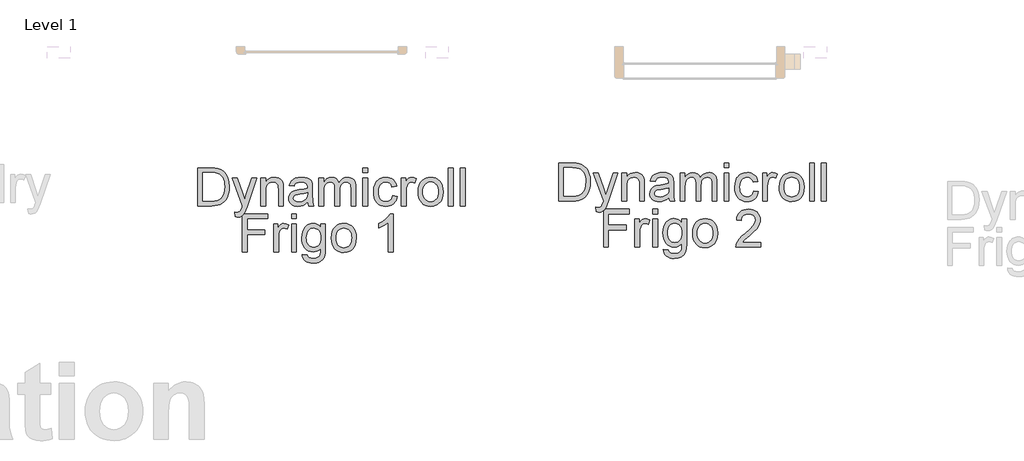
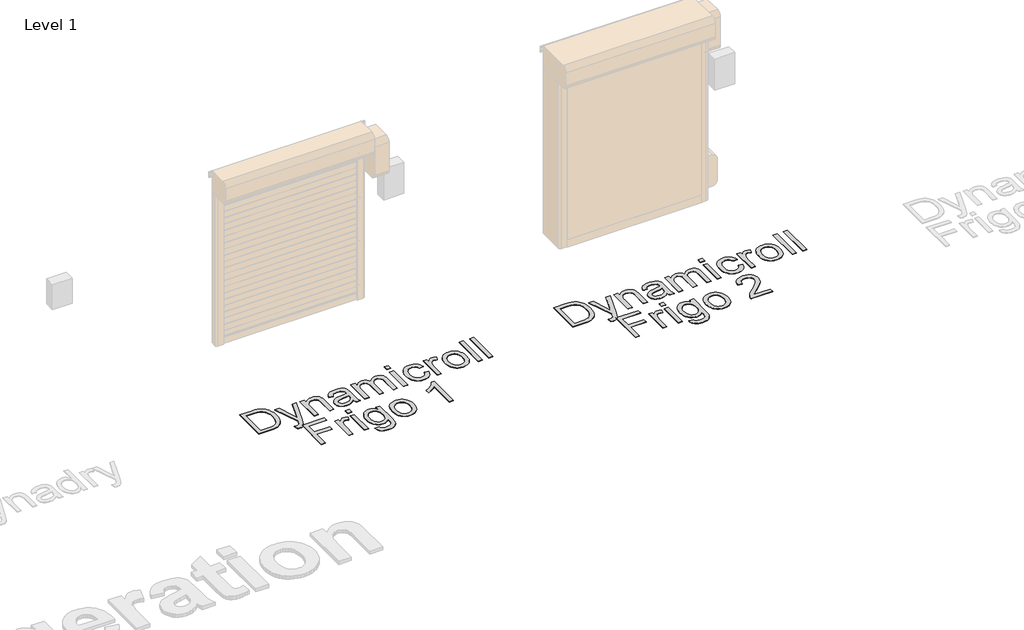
# One storey, part 4 of 20: 2 proxies.
"""IFC4 building model written with IfcOpenShell, lengths in millimetres."""

import ifcopenshell
import ifcopenshell.guid

model = None  # the IFC model being written
_history = None  # IfcOwnerHistory: only IFC2X3 demands one
_inside = {}  # id of a spatial element -> (the spatial element, [elements in it])
_under = {}  # id of a project, library or spatial element -> (it, [spatial elements below it])
_declared = {}  # id of a project -> (the project, [libraries it declares])
_typed = {}  # id of a type object -> (the type object, [elements of that type])
_made_of = {}  # id of a material, layer set ... -> (it, [elements and type objects made of it])


def new_model(schema):
    """Start an empty IFC model of exactly this schema.

    Asked for "IFC4X3", IfcOpenShell would pick the latest addendum, in which some entities
    have other attributes; the version numbers below select the first issue.
    IFC2X3 requires an IfcOwnerHistory on every rooted entity: one is made here for all.
    """
    global model, _history
    if schema == "IFC4X3":
        model = ifcopenshell.file(schema_version=(4, 3, 0, 0))
    else:
        model = ifcopenshell.file(schema=schema)
    _inside.clear()
    _under.clear()
    _declared.clear()
    _typed.clear()
    _made_of.clear()
    _history = None
    if model.schema == "IFC2X3":
        org = make("IfcOrganization", Name="unknown")
        user = make(
            "IfcPersonAndOrganization",
            ThePerson=make("IfcPerson", FamilyName="unknown"),
            TheOrganization=org,
        )
        app = make(
            "IfcApplication",
            ApplicationDeveloper=org,
            Version="unknown",
            ApplicationFullName="unknown",
            ApplicationIdentifier="unknown",
        )
        _history = make(
            "IfcOwnerHistory",
            OwningUser=user,
            OwningApplication=app,
            ChangeAction="ADDED",
            CreationDate=0,
        )
    return model


def make(cls, **values):
    """One entity of the class cls with the attributes given. An attribute that is None is left unset."""
    return model.create_entity(
        cls, **{name: value for name, value in values.items() if value is not None}
    )


def rooted(cls, **values):
    """An entity with a GlobalId (a new one), such as an element, a storey or a relation."""
    return make(cls, GlobalId=ifcopenshell.guid.new(), OwnerHistory=_history, **values)


def si_unit(unit_type, name, prefix=None):
    """IfcSIUnit, for example si_unit("LENGTHUNIT", "METRE", prefix="MILLI")."""
    return make("IfcSIUnit", UnitType=unit_type, Prefix=prefix, Name=name)


def assignment(units):
    """IfcUnitAssignment: the units of a project."""
    return None if units is None else make("IfcUnitAssignment", Units=units)


def point(xyz):
    """IfcCartesianPoint."""
    return None if xyz is None else make("IfcCartesianPoint", Coordinates=xyz)


def direction(xyz):
    """IfcDirection."""
    return None if xyz is None else make("IfcDirection", DirectionRatios=xyz)


def frame(location, z_axis=None, x_axis=None):
    """IfcAxis2Placement3D, a coordinate frame: its origin and axes. An axis left out is left unset."""
    return make(
        "IfcAxis2Placement3D",
        Location=point(location),
        Axis=direction(z_axis),
        RefDirection=direction(x_axis),
    )


def origin():
    """The frame at (0, 0, 0) with its axes left unset."""
    return frame((0.0, 0.0, 0.0))


def origin_with_axes():
    """The frame at (0, 0, 0) with the z axis (0, 0, 1) and the x axis (1, 0, 0) written out."""
    return frame((0.0, 0.0, 0.0), z_axis=(0.0, 0.0, 1.0), x_axis=(1.0, 0.0, 0.0))


def place(relative_to, where):
    """IfcLocalPlacement: puts the frame where relative to a parent placement (None: the world)."""
    return make(
        "IfcLocalPlacement", PlacementRelTo=relative_to, RelativePlacement=where
    )


def context(
    kind, dimensions, precision=None, world=None, true_north=None, identifier=None
):
    """IfcGeometricRepresentationContext, for example the 3D "Model" context."""
    return make(
        "IfcGeometricRepresentationContext",
        ContextIdentifier=identifier,
        ContextType=kind,
        CoordinateSpaceDimension=dimensions,
        Precision=precision,
        WorldCoordinateSystem=world,
        TrueNorth=true_north,
    )


def project(units=None, contexts=None):
    """IfcProject with its units and contexts."""
    return rooted(
        "IfcProject",
        Name="project",
        RepresentationContexts=contexts,
        UnitsInContext=assignment(units),
    )


def spatial(cls, under=None, at=None, **own):
    """A site, building, storey or space (cls), placed at a placement, below another one or the project."""
    s = rooted(cls, ObjectPlacement=at, **own)
    if under is not None:
        _under.setdefault(under.id(), (under, []))[1].append(s)
    return s


def polyline(points):
    """IfcPolyline through the points."""
    return make("IfcPolyline", Points=[point(p) for p in points])


def outline(outer, holes=None, kind="AREA"):
    """IfcArbitraryClosedProfileDef: a profile drawn as a closed curve; with holes, ...WithVoids."""
    if holes is None:
        return make("IfcArbitraryClosedProfileDef", ProfileType=kind, OuterCurve=outer)
    return make(
        "IfcArbitraryProfileDefWithVoids",
        ProfileType=kind,
        OuterCurve=outer,
        InnerCurves=holes,
    )


def extrude(swept, where, along, depth):
    """IfcExtrudedAreaSolid: the profile swept, set in the frame where, extruded along a direction by depth."""
    return make(
        "IfcExtrudedAreaSolid",
        SweptArea=swept,
        Position=where,
        ExtrudedDirection=direction(along),
        Depth=depth,
    )


def shape(context_of_items, identifier, shape_type, items):
    """IfcShapeRepresentation: the items that make up one representation, for example the "Body"."""
    return make(
        "IfcShapeRepresentation",
        ContextOfItems=context_of_items,
        RepresentationIdentifier=identifier,
        RepresentationType=shape_type,
        Items=items,
    )


def made_of(thing, what):
    """Note that an element or type object is made of a material, layer set ...; save() writes the relation."""
    if what is not None:
        _made_of.setdefault(what.id(), (what, []))[1].append(thing)
    return thing


def element(
    cls,
    number,
    at=None,
    inside=None,
    cuts=None,
    type_object=None,
    material=None,
    context=None,
    identifier="Body",
    shape_type=None,
    held_by="IfcProductDefinitionShape",
    body=None,
    shapes=None,
    **own,
):
    """One element of the class cls, such as IfcWall. Its Tag is "e" and its number.

    at: its placement. inside: the storey or other place that contains it. cuts: it is an
    opening in that element (IfcRelVoidsElement). A single representation is given by context,
    identifier, shape_type and body (its items); several are given by shapes. held_by: the class
    of the entity that holds the representations. save() writes the other relations.
    """
    e = rooted(cls, Tag="e%d" % number, ObjectPlacement=at, **own)
    if body is not None:
        shapes = [shape(context, identifier, shape_type, body)]
    if shapes is not None:
        e.Representation = make(held_by, Representations=shapes)
    if inside is not None:
        _inside.setdefault(inside.id(), (inside, []))[1].append(e)
    if cuts is not None:
        rooted(
            "IfcRelVoidsElement", RelatingBuildingElement=cuts, RelatedOpeningElement=e
        )
    if type_object is not None:
        _typed.setdefault(type_object.id(), (type_object, []))[1].append(e)
    return made_of(e, material)


def aggregate(whole, parts):
    """IfcRelAggregates: a whole, such as a stair, and the parts it consists of."""
    return rooted("IfcRelAggregates", RelatingObject=whole, RelatedObjects=parts)


def save(model, path):
    """Write the relations noted so far, then the file.

    IfcRelAggregates (storeys below a building ...), IfcRelContainedInSpatialStructure (elements
    in a storey), IfcRelDefinesByType, IfcRelAssociatesMaterial and IfcRelDeclares: one each for
    every whole, place, type object, material and project.
    """
    for whole, parts in _under.values():
        aggregate(whole, parts)
    for where, things in _inside.values():
        rooted(
            "IfcRelContainedInSpatialStructure",
            RelatedElements=things,
            RelatingStructure=where,
        )
    for kind, things in _typed.values():
        rooted("IfcRelDefinesByType", RelatedObjects=things, RelatingType=kind)
    for what, things in _made_of.values():
        rooted("IfcRelAssociatesMaterial", RelatedObjects=things, RelatingMaterial=what)
    for by, libraries in _declared.values():
        rooted("IfcRelDeclares", RelatingContext=by, RelatedDefinitions=libraries)
    model.write(path)


model = new_model("IFC4")

# Units and contexts
model_context = context("Model", 3, world=origin())
ifc_project = project(units=[si_unit("LENGTHUNIT", "METRE", prefix="MILLI")], contexts=[model_context])

# Site, building, storey
site = spatial("IfcSite", under=ifc_project)
building = spatial("IfcBuilding", under=site)
storey = spatial("IfcBuildingStorey", under=building, Name="Level 1", Elevation=0.0)

# Proxies
placement = place(None, origin())
element("IfcBuildingElementProxy", 1, Name="500mm", ObjectType="500mm", at=placement, inside=storey, context=model_context, shape_type="SweptSolid", body=[
    extrude(outline(polyline([(14861.4528433, 7547.2366873), (14861.4528433, 8049.5182381), (15034.725263, 8049.5182381), (15086.5046538, 8047.7094849), (15124.3658425, 8042.2832255), (15164.4036663, 8028.3343665), (15198.1874962, 8006.3534173), (15216.803858, 7988.3885132), (15232.9216879, 7968.0936898), (15246.5409859, 7945.4689471), (15257.6617521, 7920.5142851), (15272.4690024, 7864.5349081), (15277.4047525, 7801.075264), (15274.0631577, 7747.1652233), (15264.0383733, 7699.7237743), (15248.7712705, 7659.3333969), (15229.7027204, 7626.5765709), (15207.752428, 7600.7175324), (15183.8400984, 7581.0205172), (15156.3869045, 7566.4125363), (15123.8140195, 7555.8206005), (15086.0601297, 7549.3826656), (15043.0639215, 7547.2366873), (14861.4528433, 7547.2366873)]), holes=[polyline([(14924.2380371, 7610.0218811), (15035.3383996, 7610.0218811), (15081.2929922, 7612.2904868), (15116.1498112, 7619.0963037), (15142.4533739, 7630.0407931), (15162.7481973, 7644.725416), (15184.5605339, 7671.9026984), (15200.9466111, 7707.0814142), (15211.2013218, 7750.4148476), (15214.6195586, 7802.0562826), (15212.9449291, 7838.507257), (15207.9210406, 7870.4823337), (15199.5478931, 7897.9815129), (15187.8254866, 7921.0047944), (15173.704183, 7940.0733445), (15158.1343439, 7955.7083293), (15141.1159696, 7967.9097488), (15122.6490598, 7976.677603), (15086.5353106, 7984.2191839), (15033.621617, 7986.7330442), (14924.2380371, 7986.7330442), (14924.2380371, 7610.0218811)])]), origin_with_axes(), (0.0, 0.0, 1.0), 5.0),
    extrude(outline(polyline([(15355.8862448, 7405.9700012), (15348.0380955, 7466.4252757), (15379.9212018, 7460.9070458), (15396.6904894, 7462.6391568), (15409.7196434, 7467.83549), (15419.8670551, 7476.1281633), (15427.9911158, 7487.1492948), (15445.1589423, 7533.3797988), (15450.0640355, 7548.585588), (15316.6454986, 7916.0997011), (15382.8642578, 7916.0997011), (15453.6202282, 7711.3120572), (15478.2683218, 7629.3969996), (15502.9164155, 7701.7471253), (15575.6344232, 7916.0997011), (15641.362673, 7916.0997011), (15512.9718567, 7538.4075194), (15479.6172225, 7456.4924618), (15462.5413665, 7430.3421833), (15443.196905, 7412.2239951), (15420.7254464, 7401.6473877), (15394.2685996, 7398.1218519), (15376.0890977, 7400.0838892), (15355.8862448, 7405.9700012)])), origin_with_axes(), (0.0, 0.0, 1.0), 5.0),
    extrude(outline(polyline([(15693.3566617, 7547.2366873), (15693.3566617, 7916.0997011), (15756.1418555, 7916.0997011), (15756.1418555, 7864.5962218), (15777.9541922, 7890.5625593), (15804.1504559, 7909.1099432), (15834.7306467, 7920.2383736), (15869.6947647, 7923.9478504), (15900.6428375, 7920.9588092), (15928.9850796, 7911.9916855), (15952.6214978, 7898.1654539), (15969.4520991, 7880.5990886), (15980.8717693, 7859.338575), (15988.2753945, 7834.4298982), (15991.5863324, 7773.729369), (15991.5863324, 7547.2366873), (15928.8011386, 7547.2366873), (15928.8011386, 7765.2680831), (15926.9923855, 7797.7336692), (15921.566126, 7820.8182644), (15911.5566701, 7837.3576258), (15895.9983274, 7850.1875103), (15876.0560575, 7858.41887), (15852.8948203, 7861.1626565), (15833.8301023, 7859.6221507), (15816.1219492, 7855.0006331), (15799.7703609, 7847.2981038), (15784.7753375, 7836.5145628), (15772.2481891, 7821.4237368), (15763.300226, 7800.7993525), (15757.9314481, 7774.6414098), (15756.1418555, 7742.9499087), (15756.1418555, 7547.2366873), (15693.3566617, 7547.2366873)])), origin_with_axes(), (0.0, 0.0, 1.0), 5.0),
    extrude(outline(polyline([(16313.3604509, 7594.3255827), (16283.3627399, 7568.6044999), (16252.4759807, 7551.7738986), (16219.9950662, 7542.4848782), (16185.2148892, 7539.3885381), (16157.2596897, 7541.2509407), (16132.7457197, 7546.8381485), (16111.6729791, 7556.1501615), (16094.0414681, 7569.1869797), (16080.1194338, 7585.1208686), (16070.1751237, 7603.1240937), (16064.2085375, 7623.1966551), (16062.2196755, 7645.3385527), (16065.2240451, 7671.3662038), (16074.237154, 7695.002622), (16088.1400278, 7715.2361318), (16105.8136919, 7731.0550576), (16126.5836963, 7743.0112224), (16149.7755904, 7751.6564493), (16204.0994983, 7761.0987538), (16268.2949065, 7771.0315677), (16312.9925689, 7782.6811642), (16313.3604509, 7796.66068), (16309.0378374, 7824.6810253), (16296.0699971, 7843.0138114), (16282.9948579, 7850.9539312), (16267.0686332, 7856.6254452), (16226.6629274, 7861.1626565), (16189.2615912, 7858.1429585), (16163.1419695, 7849.0838643), (16145.3303496, 7832.3299052), (16132.8530186, 7806.2256119), (16070.0678247, 7814.0737611), (16080.9663289, 7848.409414), (16097.2297787, 7875.387427), (16120.3756876, 7896.0194756), (16151.9215687, 7911.3172352), (16190.5031929, 7920.7901966), (16234.7563313, 7923.9478504), (16277.2007164, 7921.1580786), (16310.8465906, 7912.7887632), (16336.2151198, 7900.2041333), (16353.8274704, 7884.7684179), (16365.5077237, 7865.6845394), (16373.0799614, 7842.1554201), (16376.1456447, 7787.2183755), (16376.1456447, 7709.1047652), (16379.3339554, 7600.0277536), (16384.0551076, 7573.065069), (16391.8419432, 7547.2366873), (16329.0567493, 7547.2366873), (16319.0013081, 7569.0643524), (16313.3604509, 7594.3255827)]), holes=[polyline([(16313.3604509, 7719.8959704), (16271.1766488, 7709.4419903), (16212.0702749, 7700.6434793), (16158.0529353, 7690.4654108), (16143.9967774, 7683.5063097), (16133.5887826, 7673.910721), (16127.1508477, 7662.4144086), (16125.0048694, 7649.7531366), (16129.6800364, 7631.0831254), (16143.7055374, 7615.7853657), (16166.7748042, 7605.5766404), (16198.5812684, 7602.1737319), (16232.3037846, 7605.929194), (16262.1022262, 7617.1955801), (16286.2598106, 7633.7962551), (16303.059755, 7653.5545839), (16310.5093654, 7673.910721), (16312.9925689, 7702.1150073), (16313.3604509, 7719.8959704)])]), origin_with_axes(), (0.0, 0.0, 1.0), 5.0),
    extrude(outline(polyline([(16462.4752863, 7547.2366873), (16462.4752863, 7916.0997011), (16525.2604801, 7916.0997011), (16525.2604801, 7855.3991719), (16544.1450892, 7883.2815615), (16568.4253009, 7905.1245549), (16597.2733807, 7919.2420265), (16629.8615941, 7923.9478504), (16664.7797268, 7919.150056), (16692.7694152, 7904.756673), (16713.6773753, 7881.718063), (16727.3503228, 7850.984588), (16750.2356486, 7882.9060153), (16776.3399418, 7905.7070348), (16805.6632025, 7919.3876465), (16838.2054307, 7923.9478504), (16863.3402016, 7922.0509588), (16885.401625, 7916.3602842), (16904.3897009, 7906.8758265), (16920.3044293, 7893.5975858), (16932.8852271, 7876.3722778), (16941.8715112, 7855.0466184), (16947.2632817, 7829.6206075), (16949.0605386, 7800.0942453), (16949.0605386, 7547.2366873), (16886.2753447, 7547.2366873), (16886.2753447, 7773.1162323), (16884.8191451, 7804.4321872), (16880.4505465, 7825.5394167), (16872.2651721, 7839.9941134), (16859.3586454, 7851.35247), (16842.7579704, 7858.7101099), (16823.4901509, 7861.1626565), (16805.6976915, 7859.5914938), (16789.4763947, 7854.8780058), (16774.8262607, 7847.0221923), (16761.7472893, 7836.0240535), (16750.9905731, 7821.5616926), (16743.3072043, 7803.3132128), (16738.6971831, 7781.2786141), (16737.1605093, 7755.4578966), (16737.1605093, 7547.2366873), (16674.3753155, 7547.2366873), (16674.3753155, 7780.1059903), (16670.7424808, 7815.6066028), (16659.8439767, 7840.9291468), (16651.4171797, 7849.7813073), (16640.6681277, 7856.1042791), (16612.2032583, 7861.1626565), (16588.0150171, 7857.7904049), (16565.7274996, 7847.67365), (16547.3333998, 7831.0576466), (16534.825412, 7808.1876492), (16527.6517131, 7776.4578271), (16525.2604801, 7733.2623495), (16525.2604801, 7547.2366873), (16462.4752863, 7547.2366873)])), origin_with_axes(), (0.0, 0.0, 1.0), 5.0),
    extrude(outline(polyline([(17043.2383293, 7986.7330442), (17043.2383293, 8049.5182381), (17106.0235232, 8049.5182381), (17106.0235232, 7986.7330442), (17043.2383293, 7986.7330442)])), origin_with_axes(), (0.0, 0.0, 1.0), 5.0),
    extrude(outline(polyline([(17043.2383293, 7547.2366873), (17043.2383293, 7916.0997011), (17106.0235232, 7916.0997011), (17106.0235232, 7547.2366873), (17043.2383293, 7547.2366873)])), origin_with_axes(), (0.0, 0.0, 1.0), 5.0),
    extrude(outline(polyline([(17435.6457908, 7680.6552242), (17498.4309847, 7672.807075), (17491.6021751, 7643.1810781), (17480.9259331, 7616.9656538), (17466.4022585, 7594.1608022), (17448.0311513, 7574.7665233), (17426.5866967, 7559.2886548), (17402.8429796, 7548.2330344), (17376.8, 7541.5996621), (17348.457758, 7539.3885381), (17313.2445533, 7542.4733819), (17281.6718474, 7551.7279133), (17253.7396405, 7567.1521324), (17229.4479325, 7588.7460391), (17209.7854063, 7616.1034304), (17195.7407447, 7648.8181032), (17187.3139478, 7686.8900576), (17184.5050155, 7730.3192936), (17189.3028098, 7786.1913716), (17203.6961929, 7834.6138392), (17214.5487117, 7855.5639524), (17227.9150909, 7873.7166296), (17243.7953304, 7889.0718708), (17262.1894301, 7901.629676), (17303.1929442, 7918.3683068), (17347.5993667, 7923.9478504), (17375.4549315, 7922.0317983), (17400.651016, 7916.2836421), (17423.1876204, 7906.7033818), (17443.0647444, 7893.2910174), (17459.945163, 7876.3531172), (17473.4916511, 7856.1962496), (17483.7042086, 7832.8204145), (17490.5828355, 7806.2256119), (17427.7976416, 7798.3774627), (17416.4086282, 7825.7693429), (17398.6736503, 7845.4050444), (17375.5737267, 7857.2232535), (17348.089876, 7861.1626565), (17326.7565524, 7859.2236118), (17307.5155576, 7853.4064778), (17290.3668917, 7843.7112544), (17275.3105546, 7830.1379416), (17263.0516535, 7812.3723069), (17254.2952956, 7790.1001178), (17249.0414809, 7763.3213742), (17247.2902093, 7732.0360762), (17249.0031598, 7700.2794294), (17254.1420115, 7673.1902854), (17262.7067642, 7650.7686442), (17274.6974179, 7633.0145058), (17289.4548509, 7619.5216673), (17306.3199411, 7609.8839254), (17325.2926886, 7604.1012803), (17346.3730933, 7602.1737319), (17378.8846647, 7606.9868547), (17405.5407809, 7621.426223), (17416.3204898, 7632.3477197), (17424.9312277, 7645.8597188), (17435.6457908, 7680.6552242)])), origin_with_axes(), (0.0, 0.0, 1.0), 5.0),
    extrude(outline(polyline([(17553.3680293, 7547.2366873), (17553.3680293, 7916.0997011), (17608.3050739, 7916.0997011), (17608.3050739, 7861.5305385), (17628.5998973, 7893.1683901), (17647.3005654, 7911.8077445), (17666.0625472, 7920.9128239), (17686.5413115, 7923.9478504), (17717.8112811, 7919.1040708), (17749.5717601, 7904.572732), (17728.6024863, 7848.2867867), (17706.5295666, 7857.9436891), (17684.4566469, 7861.1626565), (17665.7099936, 7858.0663164), (17648.9560344, 7848.777296), (17635.4210426, 7834.0007025), (17626.3312917, 7814.4416431), (17618.6977403, 7779.3702263), (17616.1532231, 7741.1104988), (17616.1532231, 7547.2366873), (17553.3680293, 7547.2366873)])), origin_with_axes(), (0.0, 0.0, 1.0), 5.0),
    extrude(outline(polyline([(17773.1162077, 7731.6681942), (17776.511452, 7779.4392041), (17786.6971847, 7820.6036666), (17803.673406, 7855.1615815), (17827.4401157, 7883.1129489), (17851.3677738, 7900.9782183), (17877.7786354, 7913.739125), (17906.6727004, 7921.395669), (17938.0499689, 7923.9478504), (17972.688358, 7920.8400139), (18004.008145, 7911.5165046), (18032.0093297, 7895.9773224), (18056.6919124, 7874.2224674), (18076.8372837, 7846.9877034), (18091.2268347, 7815.0087945), (18099.8605652, 7778.2857408), (18102.7384754, 7736.8185422), (18097.6494412, 7673.3895548), (18091.2881483, 7647.3542395), (18082.3823384, 7625.105043), (18071.0431423, 7605.8870408), (18057.3816911, 7588.9453085), (18041.3979848, 7574.2798461), (18023.0920235, 7561.8906534), (17982.3644209, 7545.0140669), (17938.0499689, 7539.3885381), (17902.9057421, 7542.4848782), (17871.2947152, 7551.7738986), (17843.2168883, 7567.2555992), (17818.6722615, 7588.9299801), (17798.741488, 7616.4291592), (17784.5052212, 7649.3852546), (17775.9634611, 7687.7982663), (17773.1162077, 7731.6681942)]), holes=[polyline([(17835.9014016, 7731.7908216), (17837.7178189, 7701.3370901), (17843.167071, 7674.9683817), (17852.2491578, 7652.6846963), (17864.9640792, 7634.4860338), (17880.4304514, 7620.3494017), (17897.7668904, 7610.2518074), (17916.9733963, 7604.1932508), (17938.0499689, 7602.1737319), (17959.0192426, 7604.2047471), (17978.1491064, 7610.2977926), (17995.4395602, 7620.4528686), (18010.890604, 7634.6699748), (18023.6055254, 7653.0487462), (18032.6876122, 7675.6888173), (18038.1368642, 7702.5901882), (18039.9532816, 7733.7528589), (18038.1253679, 7763.2409), (18032.6416269, 7788.9198297), (18023.5020586, 7810.7896479), (18010.706663, 7828.8503546), (17995.1981376, 7842.9869867), (17977.9191801, 7853.084581), (17958.8697906, 7859.1431377), (17938.0499689, 7861.1626565), (17916.9733963, 7859.1508019), (17897.7668904, 7853.1152379), (17880.4304514, 7843.0559646), (17864.9640792, 7828.9729819), (17852.2491578, 7810.827969), (17843.167071, 7788.5826046), (17837.7178189, 7762.2368888), (17835.9014016, 7731.7908216)])]), origin_with_axes(), (0.0, 0.0, 1.0), 5.0),
    extrude(outline(polyline([(18173.3718185, 7547.2366873), (18173.3718185, 8049.5182381), (18236.1570123, 8049.5182381), (18236.1570123, 7547.2366873), (18173.3718185, 7547.2366873)])), origin_with_axes(), (0.0, 0.0, 1.0), 5.0),
    extrude(outline(polyline([(18330.3348031, 7547.2366873), (18330.3348031, 8049.5182381), (18393.119997, 8049.5182381), (18393.119997, 7547.2366873), (18330.3348031, 7547.2366873)])), origin_with_axes(), (0.0, 0.0, 1.0), 5.0),
    extrude(outline(polyline([(15450.0640355, 6937.3625981), (15450.0640355, 7439.6441488), (15787.5344524, 7439.6441488), (15787.5344524, 7376.858955), (15512.8492294, 7376.858955), (15512.8492294, 7227.7441196), (15748.2937063, 7227.7441196), (15748.2937063, 7164.9589258), (15512.8492294, 7164.9589258), (15512.8492294, 6937.3625981), (15450.0640355, 6937.3625981)])), origin_with_axes(), (0.0, 0.0, 1.0), 5.0),
    extrude(outline(polyline([(15866.0159448, 6937.3625981), (15866.0159448, 7306.2256119), (15920.9529894, 7306.2256119), (15920.9529894, 7251.6564493), (15941.2478128, 7283.2943009), (15959.9484809, 7301.9336553), (15978.7104626, 7311.0387347), (15999.189227, 7314.0737611), (16030.4591966, 7309.2299815), (16062.2196755, 7294.6986427), (16041.2504018, 7238.4126975), (16019.1774821, 7248.0695998), (15997.1045624, 7251.2885673), (15978.357909, 7248.1922272), (15961.6039498, 7238.9032068), (15948.0689581, 7224.1266133), (15938.9792071, 7204.5675539), (15931.3456557, 7169.496137), (15928.8011386, 7131.2364095), (15928.8011386, 6937.3625981), (15866.0159448, 6937.3625981)])), origin_with_axes(), (0.0, 0.0, 1.0), 5.0),
    extrude(outline(polyline([(16101.4604217, 7376.858955), (16101.4604217, 7439.6441488), (16164.2456155, 7439.6441488), (16164.2456155, 7376.858955), (16101.4604217, 7376.858955)])), origin_with_axes(), (0.0, 0.0, 1.0), 5.0),
    extrude(outline(polyline([(16101.4604217, 6937.3625981), (16101.4604217, 7306.2256119), (16164.2456155, 7306.2256119), (16164.2456155, 6937.3625981), (16101.4604217, 6937.3625981)])), origin_with_axes(), (0.0, 0.0, 1.0), 5.0),
    extrude(outline(polyline([(16242.7271078, 6905.9700012), (16305.5123017, 6898.1218519), (16312.4407459, 6878.5014789), (16325.8684387, 6865.0124724), (16352.2639719, 6854.5278355), (16386.8142226, 6851.0329565), (16423.6637358, 6854.987688), (16451.0709444, 6866.8518823), (16470.0781808, 6885.8591188), (16481.7277773, 6911.2429764), (16485.1306858, 6938.2516462), (16486.019734, 6984.4514935), (16465.1271023, 6963.8501017), (16441.8125809, 6949.1348219), (16416.0761696, 6940.305654), (16387.9178686, 6937.3625981), (16353.4940773, 6940.7884992), (16323.1859658, 6951.0662024), (16296.9935342, 6968.1957078), (16274.9167824, 6992.1770154), (16257.4002345, 7020.9484531), (16244.8884145, 7052.4483489), (16237.3813226, 7086.6767029), (16234.8789586, 7123.633515), (16239.3701846, 7174.3245882), (16252.8438627, 7220.9383027), (16274.8248119, 7260.4396319), (16288.8273203, 7276.3850172), (16304.8378513, 7289.7935495), (16322.5996539, 7300.4161421), (16341.8559771, 7308.0037082), (16362.6068209, 7312.5562479), (16384.8521853, 7314.0737611), (16414.213767, 7310.6401959), (16440.862219, 7300.3395), (16464.7975414, 7283.1716735), (16486.019734, 7259.1367165), (16486.019734, 7306.2256119), (16548.8049278, 7306.2256119), (16548.8049278, 6987.7624314), (16544.5129712, 6914.2320176), (16539.1480254, 6886.8822906), (16531.6371014, 6865.80955), (16509.4568827, 6833.6965175), (16477.2518797, 6809.0944091), (16457.5663609, 6799.9740013), (16435.7271995, 6793.4594243), (16385.5879493, 6788.2477627), (16354.8276495, 6790.0833406), (16327.1713541, 6795.5900742), (16302.619063, 6804.7679635), (16281.1707763, 6817.6170086), (16263.8458336, 6834.1525379), (16251.6635746, 6854.3898798), (16244.6239994, 6878.3290342), (16242.7271078, 6905.9700012)]), holes=[polyline([(16297.6641524, 7127.9254716), (16299.3387819, 7096.8815961), (16304.3626704, 7070.3366109), (16312.7358179, 7048.2905159), (16324.4582244, 7030.7433112), (16338.7098196, 7017.3577715), (16354.6705333, 7007.7966717), (16372.3403653, 7002.0600119), (16391.7193159, 7000.1477919), (16410.9066612, 7002.0485156), (16428.492187, 7007.7506865), (16444.4758932, 7017.2543047), (16458.85778, 7030.5593702), (16470.7411348, 7047.9341303), (16479.2292455, 7069.6468322), (16484.3221118, 7095.697476), (16486.019734, 7126.0860616), (16484.2722945, 7155.2062208), (16479.029976, 7180.5172685), (16470.2927787, 7202.0192047), (16458.0607023, 7219.7120294), (16443.3684151, 7233.5267647), (16427.2505852, 7243.3944328), (16409.7072126, 7249.3150337), (16390.7382972, 7251.2885673), (16372.0874465, 7249.3456905), (16354.8851311, 7243.5170601), (16339.1313511, 7233.8026762), (16324.8261064, 7220.2025387), (16312.9427515, 7202.7779613), (16304.4546409, 7181.5902576), (16299.3617745, 7156.6394277), (16297.6641524, 7127.9254716)])]), origin_with_axes(), (0.0, 0.0, 1.0), 5.0),
    extrude(outline(polyline([(16627.2864201, 7121.794105), (16630.6816644, 7169.5651149), (16640.8673971, 7210.7295773), (16657.8436183, 7245.2874923), (16681.6103281, 7273.2388597), (16705.5379862, 7291.1041291), (16731.9488477, 7303.8650358), (16760.8429128, 7311.5215798), (16792.2201813, 7314.0737611), (16826.8585704, 7310.9659247), (16858.1783573, 7301.6424154), (16886.1795421, 7286.1032332), (16910.8621247, 7264.3483781), (16931.0074961, 7237.1136142), (16945.397047, 7205.1347053), (16954.0307776, 7168.4116516), (16956.9086878, 7126.9444529), (16951.8196535, 7063.5154656), (16945.4583607, 7037.4801502), (16936.5525507, 7015.2309537), (16925.2133546, 6996.0129516), (16911.5519035, 6979.0712193), (16895.5681972, 6964.4057568), (16877.2622358, 6952.0165642), (16836.5346333, 6935.1399777), (16792.2201813, 6929.5144488), (16757.0759544, 6932.610789), (16725.4649276, 6941.8998094), (16697.3871007, 6957.38151), (16672.8424738, 6979.0558909), (16652.9117003, 7006.55507), (16638.6754335, 7039.5111654), (16630.1336735, 7077.9241771), (16627.2864201, 7121.794105)]), holes=[polyline([(16690.0716139, 7121.9167323), (16691.8880313, 7091.4630009), (16697.3372834, 7065.0942925), (16706.4193701, 7042.8106071), (16719.1342916, 7024.6119446), (16734.6006638, 7010.4753125), (16751.9371028, 7000.3777182), (16771.1436086, 6994.3191616), (16792.2201813, 6992.2996427), (16813.189455, 6994.3306579), (16832.3193187, 7000.4237034), (16849.6097725, 7010.5787793), (16865.0608163, 7024.7958856), (16877.7757378, 7043.1746569), (16886.8578245, 7065.8147281), (16892.3070766, 7092.716099), (16894.1234939, 7123.8787696), (16892.2955803, 7153.3668108), (16886.8118393, 7179.0457405), (16877.672271, 7200.9155587), (16864.8768753, 7218.9762654), (16849.36835, 7233.1128975), (16832.0893925, 7243.2104918), (16813.0400029, 7249.2690484), (16792.2201813, 7251.2885673), (16771.1436086, 7249.2767126), (16751.9371028, 7243.2411487), (16734.6006638, 7233.1818753), (16719.1342916, 7219.0988927), (16706.4193701, 7200.9538797), (16697.3372834, 7178.7085153), (16691.8880313, 7152.3627995), (16690.0716139, 7121.9167323)])]), origin_with_axes(), (0.0, 0.0, 1.0), 5.0),
    extrude(outline(polyline([(17443.4939401, 6937.3625981), (17380.7087462, 6937.3625981), (17380.7087462, 7328.7890409), (17354.4971541, 7307.589841), (17321.2344903, 7286.4212978), (17255.1383585, 7254.7221326), (17255.1383585, 7314.0737611), (17304.4498743, 7340.89849), (17347.170171, 7372.812253), (17380.846702, 7406.7493671), (17403.0269206, 7439.6441488), (17443.4939401, 7439.6441488), (17443.4939401, 6937.3625981)])), origin_with_axes(), (0.0, 0.0, 1.0), 5.0),
])
element("IfcBuildingElementProxy", 2, Name="500mm", ObjectType="500mm", at=placement, inside=storey, context=model_context, shape_type="SweptSolid", body=[
    extrude(outline(polyline([(19635.3862268, 7610.4555859), (19635.3862268, 8112.7371367), (19808.6586466, 8112.7371367), (19860.4380374, 8110.9283835), (19898.299226, 8105.5021241), (19938.3370499, 8091.5532651), (19972.1208797, 8069.5723159), (19990.7372415, 8051.6074118), (20006.8550715, 8031.3125884), (20020.4743695, 8008.6878457), (20031.5951356, 7983.7331837), (20046.4023859, 7927.7538068), (20051.338136, 7864.2941626), (20047.9965413, 7810.3841219), (20037.9717569, 7762.9426729), (20022.7046541, 7722.5522955), (20003.636104, 7689.7954695), (19981.6858116, 7663.936431), (19957.7734819, 7644.2394158), (19930.320288, 7629.6314349), (19897.7474031, 7619.0394991), (19859.9935133, 7612.6015642), (19816.9973051, 7610.4555859), (19635.3862268, 7610.4555859)]), holes=[polyline([(19698.1714207, 7673.2407798), (19809.2717832, 7673.2407798), (19855.2263758, 7675.5093854), (19890.0831948, 7682.3152023), (19916.3867575, 7693.2596917), (19936.6815809, 7707.9443146), (19958.4939175, 7735.121597), (19974.8799947, 7770.3003128), (19985.1347053, 7813.6337462), (19988.5529422, 7865.2751812), (19986.8783127, 7901.7261556), (19981.8544242, 7933.7012323), (19973.4812767, 7961.2004115), (19961.7588702, 7984.223693), (19947.6375665, 8003.2922431), (19932.0677275, 8018.9272279), (19915.0493531, 8031.1286474), (19896.5824434, 8039.8965016), (19860.4686942, 8047.4380825), (19807.5550006, 8049.9519428), (19698.1714207, 8049.9519428), (19698.1714207, 7673.2407798)])]), origin_with_axes(), (0.0, 0.0, 1.0), 5.0),
    extrude(outline(polyline([(20129.8196283, 7469.1888998), (20121.9714791, 7529.6441743), (20153.8545854, 7524.1259444), (20170.623873, 7525.8580554), (20183.653027, 7531.0543886), (20193.8004387, 7539.3470619), (20201.9244994, 7550.3681934), (20219.0923258, 7596.5986974), (20223.9974191, 7611.8044866), (20090.5788822, 7979.3185997), (20156.7976413, 7979.3185997), (20227.5536117, 7774.5309558), (20252.2017054, 7692.6158982), (20276.8497991, 7764.9660239), (20349.5678068, 7979.3185997), (20415.2960566, 7979.3185997), (20286.9052403, 7601.626418), (20253.5506061, 7519.7113604), (20236.4747501, 7493.5610819), (20217.1302885, 7475.4428937), (20194.65883, 7464.8662863), (20168.2019832, 7461.3407505), (20150.0224812, 7463.3027878), (20129.8196283, 7469.1888998)])), origin_with_axes(), (0.0, 0.0, 1.0), 5.0),
    extrude(outline(polyline([(20467.2900453, 7610.4555859), (20467.2900453, 7979.3185997), (20530.0752391, 7979.3185997), (20530.0752391, 7927.8151204), (20551.8875757, 7953.7814579), (20578.0838395, 7972.3288418), (20608.6640303, 7983.4572722), (20643.6281483, 7987.166749), (20674.5762211, 7984.1777078), (20702.9184632, 7975.2105841), (20726.5548814, 7961.3843525), (20743.3854826, 7943.8179872), (20754.8051529, 7922.5574736), (20762.2087781, 7897.6487968), (20765.519716, 7836.9482676), (20765.519716, 7610.4555859), (20702.7345222, 7610.4555859), (20702.7345222, 7828.4869817), (20700.925769, 7860.9525678), (20695.4995096, 7884.037163), (20685.4900536, 7900.5765244), (20669.9317109, 7913.4064089), (20649.9894411, 7921.6377686), (20626.8282038, 7924.3815551), (20607.7634859, 7922.8410493), (20590.0553327, 7918.2195317), (20573.7037445, 7910.5170024), (20558.7087211, 7899.7334615), (20546.1815727, 7884.6426354), (20537.2336096, 7864.0182511), (20531.8648317, 7837.8603084), (20530.0752391, 7806.1688073), (20530.0752391, 7610.4555859), (20467.2900453, 7610.4555859)])), origin_with_axes(), (0.0, 0.0, 1.0), 5.0),
    extrude(outline(polyline([(21087.2938345, 7657.5444813), (21057.2961234, 7631.8233985), (21026.4093643, 7614.9927972), (20993.9284498, 7605.7037768), (20959.1482728, 7602.6074367), (20931.1930733, 7604.4698393), (20906.6791032, 7610.0570471), (20885.6063627, 7619.3690601), (20867.9748517, 7632.4058783), (20854.0528174, 7648.3397672), (20844.1085072, 7666.3429923), (20838.1419211, 7686.4155537), (20836.1530591, 7708.5574513), (20839.1574287, 7734.5851025), (20848.1705376, 7758.2215206), (20862.0734113, 7778.4550304), (20879.7470755, 7794.2739562), (20900.5170798, 7806.230121), (20923.7089739, 7814.8753479), (20978.0328819, 7824.3176524), (21042.2282901, 7834.2504663), (21086.9259525, 7845.9000628), (21087.2938345, 7859.8795786), (21082.971221, 7887.8999239), (21070.0033807, 7906.23271), (21056.9282414, 7914.1728298), (21041.0020167, 7919.8443439), (21000.5963109, 7924.3815551), (20963.1949748, 7921.3618571), (20937.0753531, 7912.302763), (20919.2637332, 7895.5488038), (20906.7864022, 7869.4445105), (20844.0012083, 7877.2926597), (20854.8997124, 7911.6283126), (20871.1631623, 7938.6063256), (20894.3090712, 7959.2383742), (20925.8549522, 7974.5361338), (20964.4365765, 7984.0090952), (21008.6897148, 7987.166749), (21051.1341, 7984.3769772), (21084.7799742, 7976.0076618), (21110.1485034, 7963.4230319), (21127.7608539, 7947.9873165), (21139.4411073, 7928.903438), (21147.013345, 7905.3743187), (21150.0790283, 7850.4372741), (21150.0790283, 7772.3236638), (21153.2673389, 7663.2466522), (21157.9884912, 7636.2839677), (21165.7753268, 7610.4555859), (21102.9901329, 7610.4555859), (21092.9346917, 7632.283251), (21087.2938345, 7657.5444813)]), holes=[polyline([(21087.2938345, 7783.114869), (21045.1100323, 7772.660889), (20986.0036585, 7763.8623779), (20931.9863188, 7753.6843094), (20917.9301609, 7746.7252083), (20907.5221662, 7737.1296196), (20901.0842312, 7725.6333072), (20898.9382529, 7712.9720352), (20903.61342, 7694.302024), (20917.638921, 7679.0042643), (20940.7081878, 7668.795539), (20972.514652, 7665.3926305), (21006.2371682, 7669.1480926), (21036.0356098, 7680.4144787), (21060.1931941, 7697.0151537), (21076.9931386, 7716.7734825), (21084.442749, 7737.1296196), (21086.9259525, 7765.3339059), (21087.2938345, 7783.114869)])]), origin_with_axes(), (0.0, 0.0, 1.0), 5.0),
    extrude(outline(polyline([(21236.4086698, 7610.4555859), (21236.4086698, 7979.3185997), (21299.1938637, 7979.3185997), (21299.1938637, 7918.6180705), (21318.0784728, 7946.5004601), (21342.3586844, 7968.3434536), (21371.2067642, 7982.4609251), (21403.7949776, 7987.166749), (21438.7131104, 7982.3689546), (21466.7027988, 7967.9755716), (21487.6107589, 7944.9369616), (21501.2837064, 7914.2034866), (21524.1690321, 7946.1249139), (21550.2733254, 7968.9259334), (21579.5965861, 7982.6065451), (21612.1388142, 7987.166749), (21637.2735851, 7985.2698574), (21659.3350085, 7979.5791828), (21678.3230844, 7970.0947251), (21694.2378128, 7956.8164844), (21706.8186107, 7939.5911764), (21715.8048948, 7918.265517), (21721.1966653, 7892.8395061), (21722.9939221, 7863.3131439), (21722.9939221, 7610.4555859), (21660.2087283, 7610.4555859), (21660.2087283, 7836.335131), (21658.7525287, 7867.6510858), (21654.38393, 7888.7583153), (21646.1985556, 7903.213012), (21633.292029, 7914.5713686), (21616.6913539, 7921.9290085), (21597.4235344, 7924.3815551), (21579.631075, 7922.8103924), (21563.4097783, 7918.0969044), (21548.7596443, 7910.2410909), (21535.6806729, 7899.2429521), (21524.9239567, 7884.7805912), (21517.2405879, 7866.5321114), (21512.6305667, 7844.4975127), (21511.0938929, 7818.6767952), (21511.0938929, 7610.4555859), (21448.3086991, 7610.4555859), (21448.3086991, 7843.3248889), (21444.6758644, 7878.8255014), (21433.7773603, 7904.1480454), (21425.3505633, 7913.0002059), (21414.6015113, 7919.3231777), (21386.1366419, 7924.3815551), (21361.9484007, 7921.0093035), (21339.6608832, 7910.8925486), (21321.2667834, 7894.2765452), (21308.7587956, 7871.4065478), (21301.5850967, 7839.6767257), (21299.1938637, 7796.4812481), (21299.1938637, 7610.4555859), (21236.4086698, 7610.4555859)])), origin_with_axes(), (0.0, 0.0, 1.0), 5.0),
    extrude(outline(polyline([(21817.1717129, 8049.9519428), (21817.1717129, 8112.7371367), (21879.9569067, 8112.7371367), (21879.9569067, 8049.9519428), (21817.1717129, 8049.9519428)])), origin_with_axes(), (0.0, 0.0, 1.0), 5.0),
    extrude(outline(polyline([(21817.1717129, 7610.4555859), (21817.1717129, 7979.3185997), (21879.9569067, 7979.3185997), (21879.9569067, 7610.4555859), (21817.1717129, 7610.4555859)])), origin_with_axes(), (0.0, 0.0, 1.0), 5.0),
    extrude(outline(polyline([(22209.5791744, 7743.8741228), (22272.3643683, 7736.0259736), (22265.5355587, 7706.3999767), (22254.8593167, 7680.1845524), (22240.3356421, 7657.3797008), (22221.9645349, 7637.9854219), (22200.5200803, 7622.5075534), (22176.7763632, 7611.451933), (22150.7333836, 7604.8185608), (22122.3911416, 7602.6074367), (22087.1779368, 7605.6922805), (22055.605231, 7614.9468119), (22027.6730241, 7630.371031), (22003.3813161, 7651.9649377), (21983.7187899, 7679.322329), (21969.6741283, 7712.0370018), (21961.2473314, 7750.1089562), (21958.438399, 7793.5381922), (21963.2361934, 7849.4102702), (21977.6295765, 7897.8327378), (21988.4820953, 7918.782851), (22001.8484745, 7936.9355282), (22017.7287139, 7952.2907694), (22036.1228137, 7964.8485746), (22077.1263277, 7981.5872054), (22121.5327502, 7987.166749), (22149.3883151, 7985.2506969), (22174.5843996, 7979.5025407), (22197.1210039, 7969.9222805), (22216.998128, 7956.509916), (22233.8785466, 7939.5720158), (22247.4250347, 7919.4151482), (22257.6375921, 7896.0393131), (22264.516219, 7869.4445105), (22201.7310252, 7861.5963613), (22190.3420117, 7888.9882415), (22172.6070339, 7908.623943), (22149.5071103, 7920.4421521), (22122.0232596, 7924.3815551), (22100.6899359, 7922.4425104), (22081.4489412, 7916.6253764), (22064.3002753, 7906.930153), (22049.2439382, 7893.3568402), (22036.9850371, 7875.5912055), (22028.2286792, 7853.3190164), (22022.9748645, 7826.5402728), (22021.2235929, 7795.2549748), (22022.9365434, 7763.498328), (22028.075395, 7736.409184), (22036.6401477, 7713.9875428), (22048.6308015, 7696.2334045), (22063.3882345, 7682.7405659), (22080.2533247, 7673.102824), (22099.2260722, 7667.3201789), (22120.3064769, 7665.3926305), (22152.8180482, 7670.2057533), (22179.4741645, 7684.6451216), (22190.2538734, 7695.5666183), (22198.8646113, 7709.0786175), (22209.5791744, 7743.8741228)])), origin_with_axes(), (0.0, 0.0, 1.0), 5.0),
    extrude(outline(polyline([(22327.3014129, 7610.4555859), (22327.3014129, 7979.3185997), (22382.2384575, 7979.3185997), (22382.2384575, 7924.7494371), (22402.5332809, 7956.3872887), (22421.233949, 7975.0266431), (22439.9959307, 7984.1317225), (22460.4746951, 7987.166749), (22491.7446647, 7982.3229694), (22523.5051436, 7967.7916306), (22502.5358699, 7911.5056853), (22480.4629502, 7921.1625877), (22458.3900305, 7924.3815551), (22439.6433771, 7921.285215), (22422.8894179, 7911.9961946), (22409.3544262, 7897.2196012), (22400.2646752, 7877.6605417), (22392.6311238, 7842.5891249), (22390.0866067, 7804.3293974), (22390.0866067, 7610.4555859), (22327.3014129, 7610.4555859)])), origin_with_axes(), (0.0, 0.0, 1.0), 5.0),
    extrude(outline(polyline([(22547.0495913, 7794.8870928), (22550.4448356, 7842.6581027), (22560.6305683, 7883.8225652), (22577.6067895, 7918.3804801), (22601.3734993, 7946.3318475), (22625.3011574, 7964.1971169), (22651.7120189, 7976.9580236), (22680.606084, 7984.6145676), (22711.9833525, 7987.166749), (22746.6217416, 7984.0589125), (22777.9415285, 7974.7354032), (22805.9427133, 7959.196221), (22830.6252959, 7937.441366), (22850.7706673, 7910.206602), (22865.1602182, 7878.2276932), (22873.7939488, 7841.5046394), (22876.671859, 7800.0374408), (22871.5828247, 7736.6084534), (22865.2215319, 7710.5731381), (22856.3157219, 7688.3239416), (22844.9765259, 7669.1059394), (22831.3150747, 7652.1642071), (22815.3313684, 7637.4987447), (22797.025407, 7625.1095521), (22756.2978045, 7608.2329655), (22711.9833525, 7602.6074367), (22676.8391256, 7605.7037768), (22645.2280988, 7614.9927972), (22617.1502719, 7630.4744978), (22592.6056451, 7652.1488787), (22572.6748715, 7679.6480578), (22558.4386048, 7712.6041532), (22549.8968447, 7751.0171649), (22547.0495913, 7794.8870928)]), holes=[polyline([(22609.8347852, 7795.0097202), (22611.6512025, 7764.5559887), (22617.1004546, 7738.1872803), (22626.1825413, 7715.9035949), (22638.8974628, 7697.7049324), (22654.363835, 7683.5683004), (22671.700274, 7673.470706), (22690.9067799, 7667.4121494), (22711.9833525, 7665.3926305), (22732.9526262, 7667.4236457), (22752.08249, 7673.5166913), (22769.3729437, 7683.6717672), (22784.8239875, 7697.8888734), (22797.538909, 7716.2676448), (22806.6209958, 7738.9077159), (22812.0702478, 7765.8090868), (22813.8866652, 7796.9717575), (22812.0587515, 7826.4597986), (22806.5750105, 7852.1387283), (22797.4354422, 7874.0085465), (22784.6400465, 7892.0692532), (22769.1315212, 7906.2058853), (22751.8525637, 7916.3034797), (22732.8031742, 7922.3620363), (22711.9833525, 7924.3815551), (22690.9067799, 7922.3697005), (22671.700274, 7916.3341365), (22654.363835, 7906.2748632), (22638.8974628, 7892.1918806), (22626.1825413, 7874.0468676), (22617.1004546, 7851.8015032), (22611.6512025, 7825.4557874), (22609.8347852, 7795.0097202)])]), origin_with_axes(), (0.0, 0.0, 1.0), 5.0),
    extrude(outline(polyline([(22947.3052021, 7610.4555859), (22947.3052021, 8112.7371367), (23010.0903959, 8112.7371367), (23010.0903959, 7610.4555859), (22947.3052021, 7610.4555859)])), origin_with_axes(), (0.0, 0.0, 1.0), 5.0),
    extrude(outline(polyline([(23104.2681867, 7610.4555859), (23104.2681867, 8112.7371367), (23167.0533805, 8112.7371367), (23167.0533805, 7610.4555859), (23104.2681867, 7610.4555859)])), origin_with_axes(), (0.0, 0.0, 1.0), 5.0),
    extrude(outline(polyline([(20223.9974191, 7000.5814967), (20223.9974191, 7502.8630474), (20561.467836, 7502.8630474), (20561.467836, 7440.0778536), (20286.782613, 7440.0778536), (20286.782613, 7290.9630182), (20522.2270899, 7290.9630182), (20522.2270899, 7228.1778244), (20286.782613, 7228.1778244), (20286.782613, 7000.5814967), (20223.9974191, 7000.5814967)])), origin_with_axes(), (0.0, 0.0, 1.0), 5.0),
    extrude(outline(polyline([(20639.9493283, 7000.5814967), (20639.9493283, 7369.4445105), (20694.8863729, 7369.4445105), (20694.8863729, 7314.8753479), (20715.1811963, 7346.5131995), (20733.8818644, 7365.1525539), (20752.6438462, 7374.2576333), (20773.1226106, 7377.2926597), (20804.3925802, 7372.4488801), (20836.1530591, 7357.9175413), (20815.1837854, 7301.6315961), (20793.1108657, 7311.2884984), (20771.0379459, 7314.5074659), (20752.2912926, 7311.4111258), (20735.5373334, 7302.1221054), (20722.0023417, 7287.3455119), (20712.9125907, 7267.7864525), (20705.2790393, 7232.7150356), (20702.7345222, 7194.4553081), (20702.7345222, 7000.5814967), (20639.9493283, 7000.5814967)])), origin_with_axes(), (0.0, 0.0, 1.0), 5.0),
    extrude(outline(polyline([(20875.3938052, 7440.0778536), (20875.3938052, 7502.8630474), (20938.1789991, 7502.8630474), (20938.1789991, 7440.0778536), (20875.3938052, 7440.0778536)])), origin_with_axes(), (0.0, 0.0, 1.0), 5.0),
    extrude(outline(polyline([(20875.3938052, 7000.5814967), (20875.3938052, 7369.4445105), (20938.1789991, 7369.4445105), (20938.1789991, 7000.5814967), (20875.3938052, 7000.5814967)])), origin_with_axes(), (0.0, 0.0, 1.0), 5.0),
    extrude(outline(polyline([(21016.6604914, 6969.1888998), (21079.4456852, 6961.3407505), (21086.3741295, 6941.7203775), (21099.8018223, 6928.231371), (21126.1973555, 6917.7467341), (21160.7476062, 6914.2518552), (21197.5971193, 6918.2065866), (21225.004328, 6930.0707809), (21244.0115644, 6949.0780174), (21255.6611609, 6974.461875), (21259.0640694, 7001.4705448), (21259.9531175, 7047.6703921), (21239.0604859, 7027.0690003), (21215.7459644, 7012.3537205), (21190.0095532, 7003.5245526), (21161.8512521, 7000.5814967), (21127.4274609, 7004.0073978), (21097.1193494, 7014.285101), (21070.9269178, 7031.4146064), (21048.850166, 7055.395914), (21031.333618, 7084.1673517), (21018.8217981, 7115.6672475), (21011.3147061, 7149.8956015), (21008.8123422, 7186.8524136), (21013.3035682, 7237.5434868), (21026.7772463, 7284.1572013), (21048.7581955, 7323.6585305), (21062.7607039, 7339.6039158), (21078.7712349, 7353.0124481), (21096.5330375, 7363.6350407), (21115.7893607, 7371.2226068), (21136.5402045, 7375.7751465), (21158.7855689, 7377.2926597), (21188.1471506, 7373.8590945), (21214.7956026, 7363.5583986), (21238.7309249, 7346.3905722), (21259.9531175, 7322.3556151), (21259.9531175, 7369.4445105), (21322.7383114, 7369.4445105), (21322.7383114, 7050.98133), (21318.4463548, 6977.4509162), (21313.081409, 6950.1011892), (21305.5704849, 6929.0284486), (21283.3902663, 6896.9154161), (21251.1852633, 6872.3133077), (21231.4997445, 6863.1928999), (21209.6605831, 6856.6783229), (21159.5213328, 6851.4666613), (21128.7610331, 6853.3022392), (21101.1047377, 6858.8089728), (21076.5524466, 6867.9868622), (21055.1041599, 6880.8359073), (21037.7792172, 6897.3714365), (21025.5969582, 6917.6087784), (21018.5573829, 6941.5479328), (21016.6604914, 6969.1888998)]), holes=[polyline([(21071.597536, 7191.1443702), (21073.2721655, 7160.1004947), (21078.296054, 7133.5555095), (21086.6692015, 7111.5094145), (21098.391608, 7093.9622098), (21112.6432032, 7080.5766701), (21128.6039168, 7071.0155703), (21146.2737489, 7065.2789105), (21165.6526994, 7063.3666905), (21184.8400447, 7065.2674142), (21202.4255705, 7070.9695851), (21218.4092768, 7080.4732033), (21232.7911636, 7093.7782688), (21244.6745184, 7111.1530289), (21253.162629, 7132.8657308), (21258.2554954, 7158.9163746), (21259.9531175, 7189.3049602), (21258.2056781, 7218.4251194), (21252.9633596, 7243.7361671), (21244.2261622, 7265.2381033), (21231.9940859, 7282.930928), (21217.3017987, 7296.7456633), (21201.1839688, 7306.6133314), (21183.6405962, 7312.5339323), (21164.6716808, 7314.5074659), (21146.02083, 7312.5645891), (21128.8185147, 7306.7359588), (21113.0647346, 7297.0215748), (21098.75949, 7283.4214373), (21086.8761351, 7265.9968599), (21078.3880245, 7244.8091562), (21073.2951581, 7219.8583263), (21071.597536, 7191.1443702)])]), origin_with_axes(), (0.0, 0.0, 1.0), 5.0),
    extrude(outline(polyline([(21401.2198037, 7185.0130036), (21404.6150479, 7232.7840135), (21414.8007807, 7273.9484759), (21431.7770019, 7308.5063909), (21455.5437116, 7336.4577583), (21479.4713697, 7354.3230277), (21505.8822313, 7367.0839344), (21534.7762963, 7374.7404784), (21566.1535648, 7377.2926597), (21600.791954, 7374.1848233), (21632.1117409, 7364.861314), (21660.1129257, 7349.3221318), (21684.7955083, 7327.5672767), (21704.9408796, 7300.3325128), (21719.3304306, 7268.3536039), (21727.9641612, 7231.6305502), (21730.8420714, 7190.1633515), (21725.7530371, 7126.7343642), (21719.3917443, 7100.6990488), (21710.4859343, 7078.4498523), (21699.1467382, 7059.2318502), (21685.485287, 7042.2901179), (21669.5015808, 7027.6246554), (21651.1956194, 7015.2354628), (21610.4680169, 6998.3588763), (21566.1535648, 6992.7333475), (21531.009338, 6995.8296876), (21499.3983111, 7005.118708), (21471.3204843, 7020.6004086), (21446.7758574, 7042.2747895), (21426.8450839, 7069.7739686), (21412.6088171, 7102.730064), (21404.067057, 7141.1430757), (21401.2198037, 7185.0130036)]), holes=[polyline([(21464.0049975, 7185.1356309), (21465.8214149, 7154.6818995), (21471.2706669, 7128.3131911), (21480.3527537, 7106.0295057), (21493.0676751, 7087.8308432), (21508.5340474, 7073.6942111), (21525.8704864, 7063.5966168), (21545.0769922, 7057.5380602), (21566.1535648, 7055.5185413), (21587.1228386, 7057.5495565), (21606.2527023, 7063.642602), (21623.5431561, 7073.7976779), (21638.9941999, 7088.0147842), (21651.7091214, 7106.3935556), (21660.7912081, 7129.0336267), (21666.2404602, 7155.9349976), (21668.0568775, 7187.0976682), (21666.2289638, 7216.5857094), (21660.7452229, 7242.2646391), (21651.6056545, 7264.1344573), (21638.8102589, 7282.195164), (21623.3017335, 7296.3317961), (21606.0227761, 7306.4293904), (21586.9733865, 7312.487947), (21566.1535648, 7314.5074659), (21545.0769922, 7312.4956112), (21525.8704864, 7306.4600473), (21508.5340474, 7296.400774), (21493.0676751, 7282.3177913), (21480.3527537, 7264.1727783), (21471.2706669, 7241.9274139), (21465.8214149, 7215.5816981), (21464.0049975, 7185.1356309)])]), origin_with_axes(), (0.0, 0.0, 1.0), 5.0),
    extrude(outline(polyline([(22303.7569652, 7063.3666905), (22303.7569652, 7000.5814967), (21974.1346975, 7000.5814967), (21975.514255, 7022.6850732), (21980.8792007, 7043.8689448), (21996.3609014, 7077.6987599), (22019.0163009, 7110.5168996), (22051.7884553, 7144.8678809), (22097.6204205, 7183.296221), (22165.3720213, 7243.475584), (22206.0229818, 7287.8973349), (22226.348462, 7323.9497704), (22231.4298321, 7341.6081062), (22233.1236221, 7359.0211873), (22231.5256347, 7375.4034324), (22226.7316724, 7390.4597695), (22218.7417354, 7404.1901985), (22207.5558234, 7416.5947196), (22193.7947376, 7426.8685907), (22178.0792786, 7434.2070701), (22160.4094465, 7438.6101577), (22140.7852413, 7440.0778536), (22101.6211372, 7434.3450258), (22085.3155342, 7427.1789911), (22071.1942306, 7417.1465426), (22059.7707282, 7404.5849053), (22051.5585291, 7389.8313044), (22046.5576332, 7372.88574), (22044.7680406, 7353.7482121), (21981.9828467, 7361.5963613), (21987.3822814, 7394.0082979), (21997.2039643, 7422.3275473), (22011.4478953, 7446.5541095), (22030.1140744, 7466.6879846), (22052.7733061, 7482.5145746), (22078.9963945, 7493.8192817), (22108.7833398, 7500.602106), (22142.134142, 7502.8630474), (22175.7838482, 7500.3491871), (22205.7317419, 7492.8076062), (22231.977823, 7480.2383047), (22254.5220915, 7462.6412826), (22272.6287834, 7441.3194553), (22285.5621348, 7417.5757382), (22293.3221457, 7391.4101313), (22295.9088159, 7362.8226346), (22293.1190442, 7332.7942667), (22284.7497288, 7303.2870651), (22269.8964932, 7273.2740256), (22247.6549609, 7241.7281445), (22212.2003336, 7204.0662253), (22157.7078131, 7155.7050713), (22085.4803147, 7095.3111104), (22057.1534011, 7063.3666905), (22303.7569652, 7063.3666905)])), origin_with_axes(), (0.0, 0.0, 1.0), 5.0),
])

save(model, "model.ifc")
